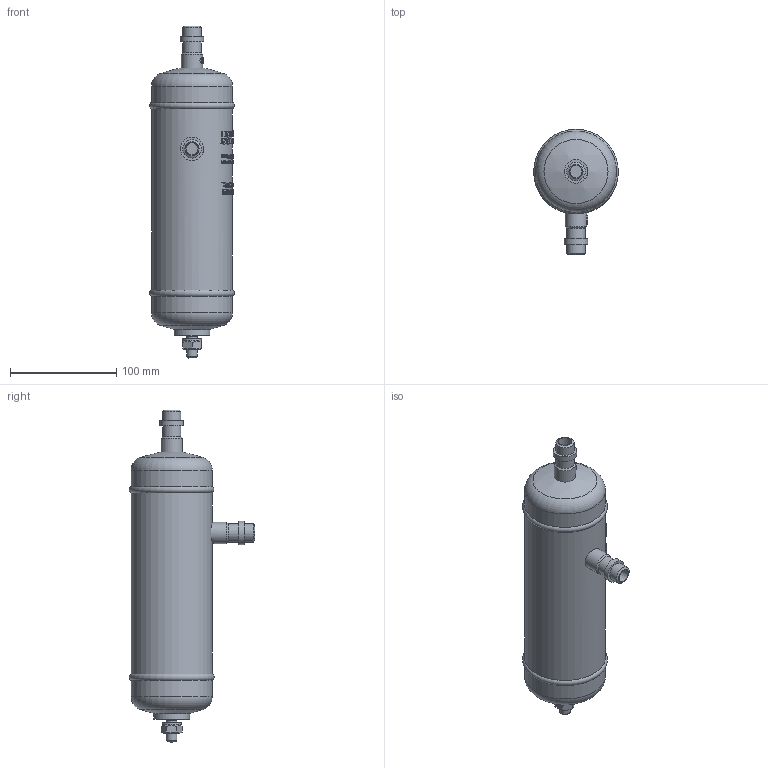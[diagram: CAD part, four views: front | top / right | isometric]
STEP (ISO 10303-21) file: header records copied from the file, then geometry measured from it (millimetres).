
FILE_DESCRIPTION(/* description */ (''),/* implementation_level */ '2;1');
FILE_NAME(/* name */ '\\SRV-DC1\Geräte3D\FA\FA-12U-CDH\FA-12U-CDH.stp',/* time_stamp */ '2019-10-16T09:08:22+02:00',/* author */ ('tran'),/* organization */ (''),/* preprocessor_version */ 'ST-DEVELOPER v17',/* originating_system */ 'Autodesk Inventor 2019',/* authorisation */ '');
FILE_SCHEMA (('AUTOMOTIVE_DESIGN { 1 0 10303 214 3 1 1 }'));
Length unit declared in the file: millimetre
Products named in the file (1): FA-12U-CDH_AG-Kunde
Bounding box: 79.6 x 117.85 x 312.02 mm (x, y, z)
Volume: 1106220.8 mm3; surface area: 75747.2 mm2
Topology: 2 solids, 2 shells, 1347 faces, 3672 edges, 2455 vertices
Faces by surface type: plane 733, bspline 460, cylinder 137, cone 10, torus 4, sphere 3
Full cylindrical faces by diameter (mm): 7 x1, 10 x2, 11.4 x2, 12.2 x2, 17.2 x4, 20 x2, 22 x2, 27.3 x1, 33.7 x1, 76.1 x3
Entity records: 54914 total; most frequent: CARTESIAN_POINT 22859, ORIENTED_EDGE 7344, DIRECTION 5509, EDGE_CURVE 3672, VERTEX_POINT 2455, AXIS2_PLACEMENT_3D 1883, LINE 1743, VECTOR 1743
